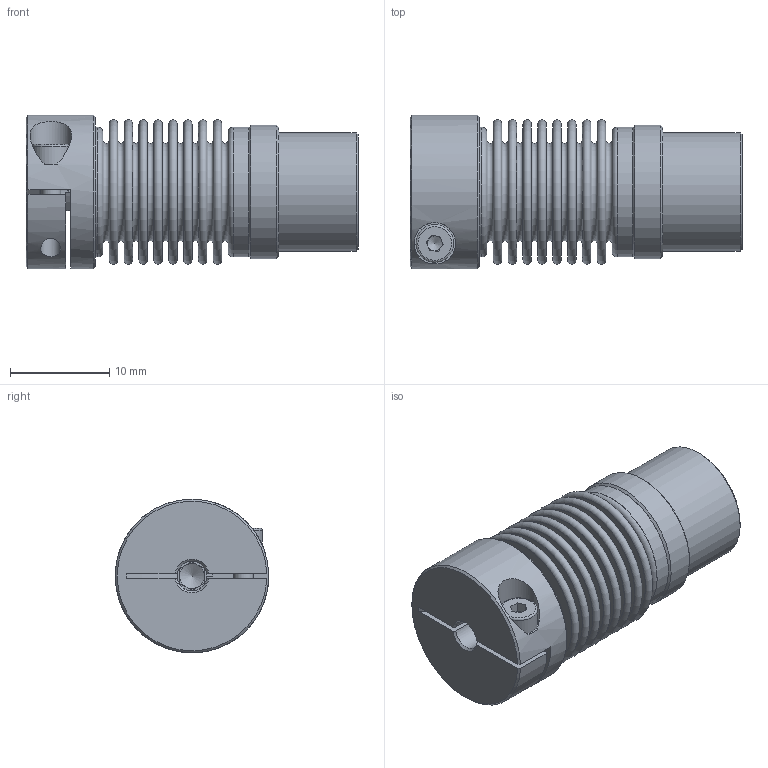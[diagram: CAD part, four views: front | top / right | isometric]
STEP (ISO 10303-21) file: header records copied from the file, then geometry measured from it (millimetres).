
FILE_DESCRIPTION( ( 'Unknown' ), '1' );
FILE_NAME( 'K:/Konstruktion/cad kunden/3D - Daten/KB3/KB3-10-26.stp', 'Unknown', ( 'Unknown' ), ( 'Unknown' ), 'PSStep 16.0.42', 'Unknown', ' ' );
FILE_SCHEMA( ( 'AUTOMOTIVE_DESIGN { 1 0 10303 214 1 1 1 1 }' ) );
Length unit declared in the file: millimetre
Products named in the file (6): Assem1; KN10_Standard_11; SN10; Socket Head Cap Screw_DIN_DIN 912 M2 x 8 --- 8N_5; Socket Head Cap Screw_DIN_DIN 912 M3 x 10 --- 10N_2; BM10_Standard_0
Assembly tree (5 placements, depth 2):
  Assem1
    KN10_Standard_11
    SN10
    Socket Head Cap Screw_DIN_DIN 912 M2 x 8 --- 8N_5
    Socket Head Cap Screw_DIN_DIN 912 M3 x 10 --- 10N_2
    BM10_Standard_0
Bounding box: 33.5 x 15.5 x 15.5 mm (x, y, z)
Volume: 3040.7 mm3; surface area: 6195 mm2
Topology: 5 solids, 5 shells, 157 faces, 299 edges, 192 vertices
Faces by surface type: plane 83, torus 42, cylinder 20, cone 12
Full cylindrical faces by diameter (mm): 2 x2, 2.2 x1, 2.5 x1, 3 x2, 3.8 x1, 5.5 x1, 12 x1, 12.9 x3, 13.1 x2, 13.5 x1, 15.5 x1
Entity records: 5082 total; most frequent: DIRECTION 688, CARTESIAN_POINT 675, ORIENTED_EDGE 442, AXIS2_PLACEMENT_3D 308, EDGE_LOOP 274, EDGE_CURVE 221, FACE_OUTER_BOUND 215, VERTEX_POINT 199
